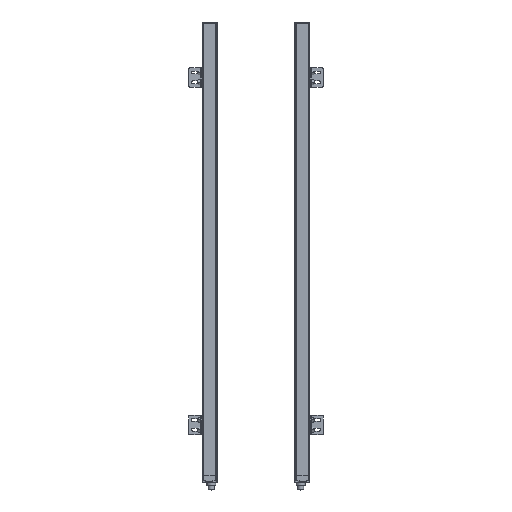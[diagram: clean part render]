
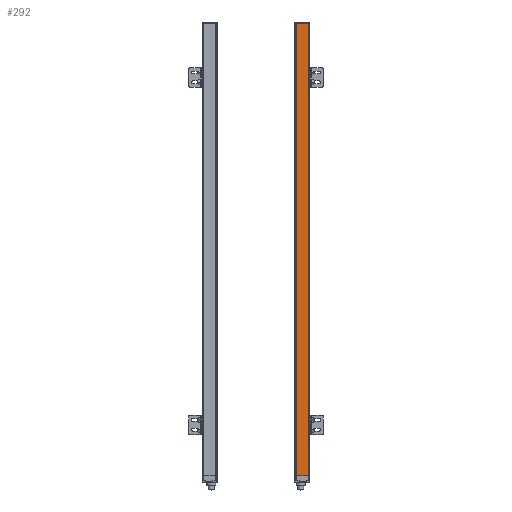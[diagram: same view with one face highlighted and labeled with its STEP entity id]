
A CAD part, top view. The second image highlights one B-rep face of the part: STEP entity #292.
In plain terms, the highlighted planar face has unit normal (0, 0, 1).
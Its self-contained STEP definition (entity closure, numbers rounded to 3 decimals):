
#292 = ADVANCED_FACE( '', ( #710 ), #711, .F. );
#710 = FACE_OUTER_BOUND( '', #1428, .T. );
#711 = PLANE( '', #1429 );
#1428 = EDGE_LOOP( '', ( #2730, #2731, #2732, #2733 ) );
#1429 = AXIS2_PLACEMENT_3D( '', #2734, #2735, #2736 );
#2730 = ORIENTED_EDGE( '', *, *, #4987, .T. );
#2731 = ORIENTED_EDGE( '', *, *, #4903, .T. );
#2732 = ORIENTED_EDGE( '', *, *, #4986, .F. );
#2733 = ORIENTED_EDGE( '', *, *, #4768, .F. );
#2734 = CARTESIAN_POINT( '', ( 3.66, 947.5, 14.01 ) );
#2735 = DIRECTION( '', ( 0., 0., -1. ) );
#2736 = DIRECTION( '', ( -1., 0., 0. ) );
#4768 = EDGE_CURVE( '', #5721, #5723, #5724, .T. );
#4903 = EDGE_CURVE( '', #5977, #5975, #5978, .T. );
#4986 = EDGE_CURVE( '', #5723, #5975, #6105, .T. );
#4987 = EDGE_CURVE( '', #5721, #5977, #6106, .T. );
#5721 = VERTEX_POINT( '', #7298 );
#5723 = VERTEX_POINT( '', #7300 );
#5724 = LINE( '', #7301, #7302 );
#5975 = VERTEX_POINT( '', #7626 );
#5977 = VERTEX_POINT( '', #7628 );
#5978 = LINE( '', #7629, #7630 );
#6105 = LINE( '', #7815, #7816 );
#6106 = LINE( '', #7817, #7818 );
#7298 = CARTESIAN_POINT( '', ( 3.66, 944.5, 14.01 ) );
#7300 = CARTESIAN_POINT( '', ( 27.672, 944.5, 14.01 ) );
#7301 = CARTESIAN_POINT( '', ( 3.66, 944.5, 14.01 ) );
#7302 = VECTOR( '', #9161, 1000. );
#7626 = CARTESIAN_POINT( '', ( 27.672, 14., 14.01 ) );
#7628 = CARTESIAN_POINT( '', ( 3.66, 14., 14.01 ) );
#7629 = CARTESIAN_POINT( '', ( 3.66, 14., 14.01 ) );
#7630 = VECTOR( '', #9418, 1000. );
#7815 = CARTESIAN_POINT( '', ( 27.672, 947.5, 14.01 ) );
#7816 = VECTOR( '', #9549, 1000. );
#7817 = CARTESIAN_POINT( '', ( 3.66, 947.5, 14.01 ) );
#7818 = VECTOR( '', #9550, 1000. );
#9161 = DIRECTION( '', ( 1., 0., 0. ) );
#9418 = DIRECTION( '', ( 1., 0., 0. ) );
#9549 = DIRECTION( '', ( 0., -1., 0. ) );
#9550 = DIRECTION( '', ( 0., -1., 0. ) );
